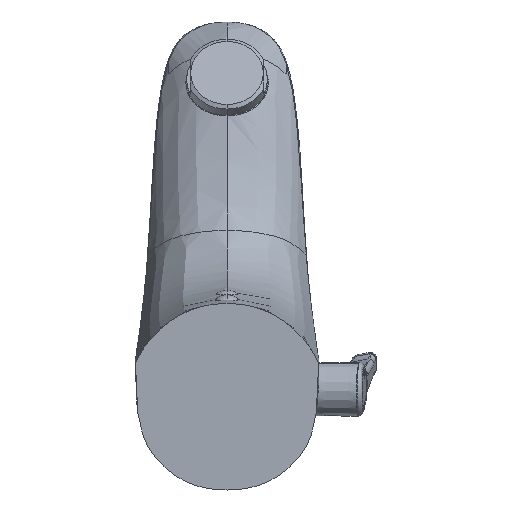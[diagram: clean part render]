
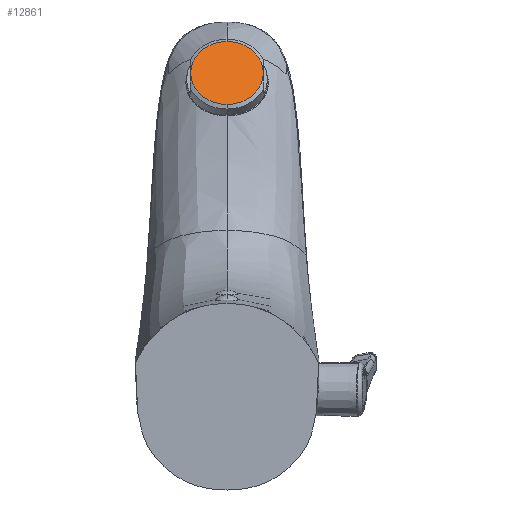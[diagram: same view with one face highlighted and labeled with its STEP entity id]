
A CAD part, front view. The second image highlights one B-rep face of the part: STEP entity #12861.
In plain terms, the highlighted planar face has unit normal (0, -0.866, 0.5).
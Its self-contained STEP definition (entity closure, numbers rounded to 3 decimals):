
#655 = CARTESIAN_POINT ( 'NONE',  ( 213.513, 632.51, 764.519 ) ) ;
#774 = DIRECTION ( 'NONE',  ( 1., 0., 0. ) ) ;
#1348 = EDGE_CURVE ( 'NONE', #3225, #6314, #13132, .T. ) ;
#1984 = DIRECTION ( 'NONE',  ( 0., -0.5, -0.866 ) ) ;
#3225 = VERTEX_POINT ( 'NONE', #655 ) ;
#3226 = EDGE_CURVE ( 'NONE', #6314, #3225, #12795, .T. ) ;
#3956 = DIRECTION ( 'NONE',  ( 0., -0.866, 0.5 ) ) ;
#4144 = PLANE ( 'NONE',  #8307 ) ;
#5698 = CARTESIAN_POINT ( 'NONE',  ( 213.513, 621.71, 745.813 ) ) ;
#5782 = DIRECTION ( 'NONE',  ( 0., 0.866, -0.5 ) ) ;
#6314 = VERTEX_POINT ( 'NONE', #5698 ) ;
#6713 = CARTESIAN_POINT ( 'NONE',  ( 213.513, 627.11, 755.166 ) ) ;
#6796 = AXIS2_PLACEMENT_3D ( 'NONE', #8567, #12790, #1984 ) ;
#8192 = FACE_OUTER_BOUND ( 'NONE', #12494, .T. ) ;
#8307 = AXIS2_PLACEMENT_3D ( 'NONE', #11688, #3956, #774 ) ;
#8424 = AXIS2_PLACEMENT_3D ( 'NONE', #6713, #5782, #12294 ) ;
#8567 = CARTESIAN_POINT ( 'NONE',  ( 213.513, 627.11, 755.166 ) ) ;
#9168 = ORIENTED_EDGE ( 'NONE', *, *, #3226, .F. ) ;
#11688 = CARTESIAN_POINT ( 'NONE',  ( 202.713, 627.11, 755.166 ) ) ;
#12156 = ORIENTED_EDGE ( 'NONE', *, *, #1348, .F. ) ;
#12294 = DIRECTION ( 'NONE',  ( 0., -0.5, -0.866 ) ) ;
#12494 = EDGE_LOOP ( 'NONE', ( #9168, #12156 ) ) ;
#12790 = DIRECTION ( 'NONE',  ( 0., 0.866, -0.5 ) ) ;
#12795 = CIRCLE ( 'NONE', #6796, 10.8 ) ;
#12861 = ADVANCED_FACE ( 'NONE', ( #8192 ), #4144, .T. ) ;
#13132 = CIRCLE ( 'NONE', #8424, 10.8 ) ;
